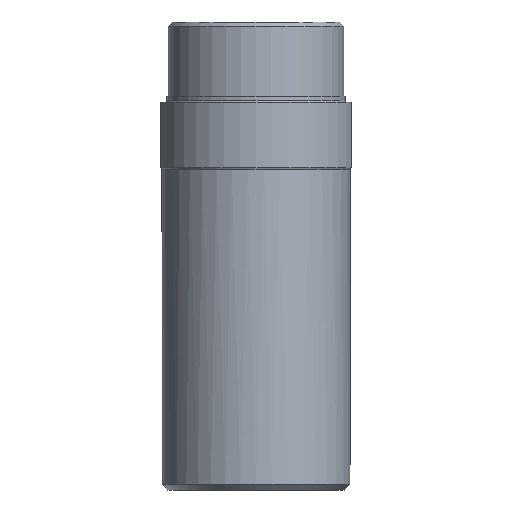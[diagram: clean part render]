
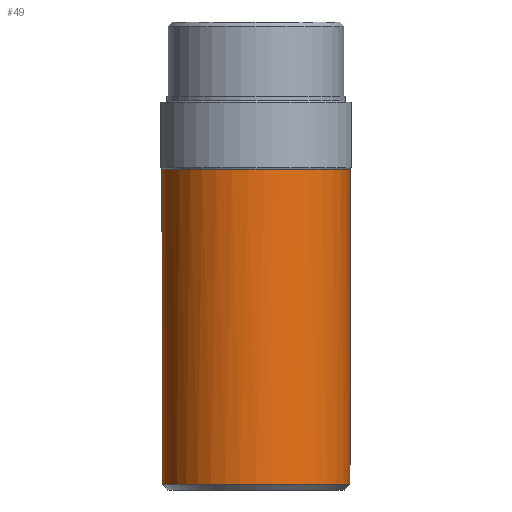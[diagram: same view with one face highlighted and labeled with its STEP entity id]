
A CAD part, left-side view. The second image highlights one B-rep face of the part: STEP entity #49.
In plain terms, the highlighted cylindrical face has radius 31.65 mm (diameter 63.3 mm), a full revolution.
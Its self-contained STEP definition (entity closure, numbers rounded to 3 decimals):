
#49 = ADVANCED_FACE( '', ( #112, #113 ), #114, .T. );
#112 = FACE_OUTER_BOUND( '', #193, .T. );
#113 = FACE_OUTER_BOUND( '', #194, .T. );
#114 = CYLINDRICAL_SURFACE( '', #195, 31.65 );
#193 = EDGE_LOOP( '', ( #452 ) );
#194 = EDGE_LOOP( '', ( #453, #454, #455, #456 ) );
#195 = AXIS2_PLACEMENT_3D( '', #457, #458, #459 );
#452 = ORIENTED_EDGE( '', *, *, #596, .T. );
#453 = ORIENTED_EDGE( '', *, *, #597, .T. );
#454 = ORIENTED_EDGE( '', *, *, #598, .T. );
#455 = ORIENTED_EDGE( '', *, *, #599, .T. );
#456 = ORIENTED_EDGE( '', *, *, #600, .T. );
#457 = CARTESIAN_POINT( '', ( 0., 0., -79.75 ) );
#458 = DIRECTION( '', ( 0., 0., -1. ) );
#459 = DIRECTION( '', ( 0.906, 0.423, 0. ) );
#596 = EDGE_CURVE( '', #657, #657, #658, .F. );
#597 = EDGE_CURVE( '', #659, #660, #661, .F. );
#598 = EDGE_CURVE( '', #660, #662, #663, .T. );
#599 = EDGE_CURVE( '', #662, #664, #665, .F. );
#600 = EDGE_CURVE( '', #664, #659, #666, .T. );
#657 = VERTEX_POINT( '', #740 );
#658 = CIRCLE( '', #741, 31.65 );
#659 = VERTEX_POINT( '', #742 );
#660 = VERTEX_POINT( '', #743 );
#661 = CIRCLE( '', #744, 31.65 );
#662 = VERTEX_POINT( '', #745 );
#663 = B_SPLINE_CURVE_WITH_KNOTS( '', 3, ( #746, #747, #748, #749, #750, #751, #752, #753, #754, #755, #756, #757, #758, #759, #760, #761, #762, #763, #764, #765, #766, #767, #768, #769, #770 ), .UNSPECIFIED., .F., .F., ( 4, 2, 2, 2, 1, 1, 1, 1, 2, 2, 1, 1, 2, 2, 1, 4 ), ( 0., 0., 0.001, 0.002, 0.002, 0.002, 0.003, 0.003, 0.003, 0.004, 0.004, 0.004, 0.005, 0.005, 0.006, 0.006 ), .UNSPECIFIED. );
#664 = VERTEX_POINT( '', #771 );
#665 = CIRCLE( '', #772, 31.65 );
#666 = B_SPLINE_CURVE_WITH_KNOTS( '', 3, ( #773, #774, #775, #776, #777, #778, #779, #780, #781, #782, #783, #784, #785, #786, #787, #788, #789, #790, #791, #792, #793, #794, #795, #796, #797 ), .UNSPECIFIED., .F., .F., ( 4, 2, 2, 2, 1, 1, 1, 1, 2, 2, 1, 1, 2, 2, 1, 4 ), ( 0., 0., 0.001, 0.002, 0.002, 0.002, 0.003, 0.003, 0.003, 0.004, 0.004, 0.004, 0.005, 0.005, 0.006, 0.006 ), .UNSPECIFIED. );
#740 = CARTESIAN_POINT( '', ( -31.65, 0., -77.75 ) );
#741 = AXIS2_PLACEMENT_3D( '', #884, #885, #886 );
#742 = CARTESIAN_POINT( '', ( 3.054, 31.502, 28.25 ) );
#743 = CARTESIAN_POINT( '', ( 3.054, -31.502, 28.25 ) );
#744 = AXIS2_PLACEMENT_3D( '', #887, #888, #889 );
#745 = CARTESIAN_POINT( '', ( -3.054, -31.502, 28.25 ) );
#746 = CARTESIAN_POINT( '', ( 3.054, -31.502, 28.25 ) );
#747 = CARTESIAN_POINT( '', ( 2.927, -31.515, 28.25 ) );
#748 = CARTESIAN_POINT( '', ( 2.8, -31.526, 28.25 ) );
#749 = CARTESIAN_POINT( '', ( 2.546, -31.548, 28.252 ) );
#750 = CARTESIAN_POINT( '', ( 2.419, -31.558, 28.253 ) );
#751 = CARTESIAN_POINT( '', ( 2.037, -31.585, 28.257 ) );
#752 = CARTESIAN_POINT( '', ( 1.783, -31.601, 28.26 ) );
#753 = CARTESIAN_POINT( '', ( 1.402, -31.619, 28.264 ) );
#754 = CARTESIAN_POINT( '', ( 1.147, -31.63, 28.267 ) );
#755 = CARTESIAN_POINT( '', ( 0.765, -31.642, 28.27 ) );
#756 = CARTESIAN_POINT( '', ( 0.383, -31.648, 28.273 ) );
#757 = CARTESIAN_POINT( '', ( 0.001, -31.651, 28.273 ) );
#758 = CARTESIAN_POINT( '', ( -0.254, -31.649, 28.273 ) );
#759 = CARTESIAN_POINT( '', ( -0.445, -31.647, 28.272 ) );
#760 = CARTESIAN_POINT( '', ( -0.509, -31.646, 28.272 ) );
#761 = CARTESIAN_POINT( '', ( -0.637, -31.644, 28.271 ) );
#762 = CARTESIAN_POINT( '', ( -0.828, -31.64, 28.27 ) );
#763 = CARTESIAN_POINT( '', ( -1.146, -31.63, 28.267 ) );
#764 = CARTESIAN_POINT( '', ( -1.401, -31.619, 28.264 ) );
#765 = CARTESIAN_POINT( '', ( -1.783, -31.601, 28.26 ) );
#766 = CARTESIAN_POINT( '', ( -2.037, -31.585, 28.257 ) );
#767 = CARTESIAN_POINT( '', ( -2.419, -31.558, 28.253 ) );
#768 = CARTESIAN_POINT( '', ( -2.673, -31.538, 28.251 ) );
#769 = CARTESIAN_POINT( '', ( -2.927, -31.515, 28.25 ) );
#770 = CARTESIAN_POINT( '', ( -3.054, -31.502, 28.25 ) );
#771 = CARTESIAN_POINT( '', ( -3.054, 31.502, 28.25 ) );
#772 = AXIS2_PLACEMENT_3D( '', #890, #891, #892 );
#773 = CARTESIAN_POINT( '', ( -3.054, 31.502, 28.25 ) );
#774 = CARTESIAN_POINT( '', ( -2.927, 31.515, 28.25 ) );
#775 = CARTESIAN_POINT( '', ( -2.8, 31.526, 28.25 ) );
#776 = CARTESIAN_POINT( '', ( -2.546, 31.548, 28.252 ) );
#777 = CARTESIAN_POINT( '', ( -2.419, 31.558, 28.253 ) );
#778 = CARTESIAN_POINT( '', ( -2.037, 31.585, 28.257 ) );
#779 = CARTESIAN_POINT( '', ( -1.783, 31.601, 28.26 ) );
#780 = CARTESIAN_POINT( '', ( -1.402, 31.619, 28.264 ) );
#781 = CARTESIAN_POINT( '', ( -1.147, 31.63, 28.267 ) );
#782 = CARTESIAN_POINT( '', ( -0.765, 31.642, 28.27 ) );
#783 = CARTESIAN_POINT( '', ( -0.383, 31.648, 28.273 ) );
#784 = CARTESIAN_POINT( '', ( -0.001, 31.651, 28.273 ) );
#785 = CARTESIAN_POINT( '', ( 0.254, 31.649, 28.273 ) );
#786 = CARTESIAN_POINT( '', ( 0.445, 31.647, 28.272 ) );
#787 = CARTESIAN_POINT( '', ( 0.509, 31.646, 28.272 ) );
#788 = CARTESIAN_POINT( '', ( 0.637, 31.644, 28.271 ) );
#789 = CARTESIAN_POINT( '', ( 0.828, 31.64, 28.27 ) );
#790 = CARTESIAN_POINT( '', ( 1.146, 31.63, 28.267 ) );
#791 = CARTESIAN_POINT( '', ( 1.401, 31.619, 28.264 ) );
#792 = CARTESIAN_POINT( '', ( 1.783, 31.601, 28.26 ) );
#793 = CARTESIAN_POINT( '', ( 2.037, 31.585, 28.257 ) );
#794 = CARTESIAN_POINT( '', ( 2.419, 31.558, 28.253 ) );
#795 = CARTESIAN_POINT( '', ( 2.673, 31.538, 28.251 ) );
#796 = CARTESIAN_POINT( '', ( 2.927, 31.515, 28.25 ) );
#797 = CARTESIAN_POINT( '', ( 3.054, 31.502, 28.25 ) );
#884 = CARTESIAN_POINT( '', ( 0., 0., -77.75 ) );
#885 = DIRECTION( '', ( 0., 0., -1. ) );
#886 = DIRECTION( '', ( -1., 0., 0. ) );
#887 = CARTESIAN_POINT( '', ( 0., 0., 28.25 ) );
#888 = DIRECTION( '', ( 0., 0., 1. ) );
#889 = DIRECTION( '', ( 1., 0., 0. ) );
#890 = CARTESIAN_POINT( '', ( 0., 0., 28.25 ) );
#891 = DIRECTION( '', ( 0., 0., 1. ) );
#892 = DIRECTION( '', ( 1., 0., 0. ) );
